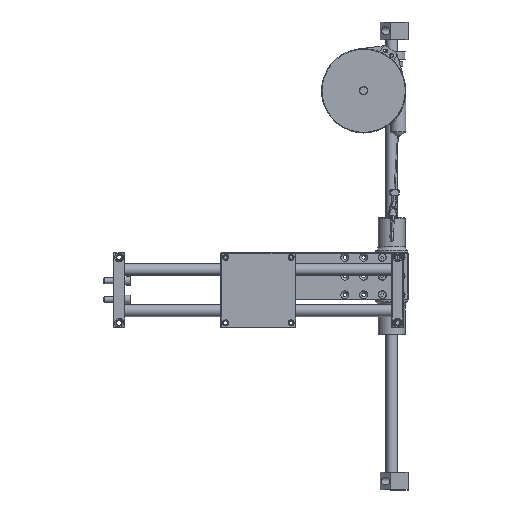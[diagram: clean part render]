
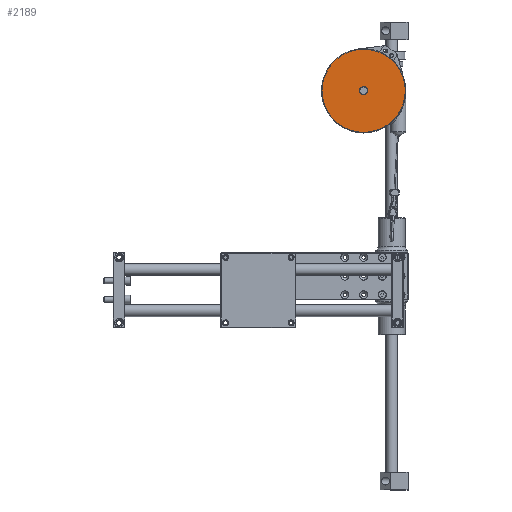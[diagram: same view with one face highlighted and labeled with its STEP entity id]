
A CAD part, top view. The second image highlights one B-rep face of the part: STEP entity #2189.
In plain terms, the highlighted planar face has unit normal (0, 0, 1) as drawn and (0, 0, -1) by its records, which use the part's own axes.
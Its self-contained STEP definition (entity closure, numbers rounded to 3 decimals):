
#2189 = ADVANCED_FACE( '', ( #4500, #4501 ), #4502, .T. );
#4500 = FACE_OUTER_BOUND( '', #7604, .T. );
#4501 = FACE_BOUND( '', #7605, .T. );
#4502 = PLANE( '', #7606 );
#7604 = EDGE_LOOP( '', ( #12360 ) );
#7605 = EDGE_LOOP( '', ( #12361 ) );
#7606 = AXIS2_PLACEMENT_3D( '', #12362, #12363, #12364 );
#12360 = ORIENTED_EDGE( '', *, *, #18001, .T. );
#12361 = ORIENTED_EDGE( '', *, *, #18002, .F. );
#12362 = CARTESIAN_POINT( '', ( -67.368, 63.746, -25. ) );
#12363 = DIRECTION( '', ( 0., 0., -1. ) );
#12364 = DIRECTION( '', ( -1., 0., 0. ) );
#18001 = EDGE_CURVE( '', #21498, #21498, #21499, .T. );
#18002 = EDGE_CURVE( '', #21500, #21500, #21501, .T. );
#21498 = VERTEX_POINT( '', #26365 );
#21499 = CIRCLE( '', #26366, 89. );
#21500 = VERTEX_POINT( '', #26367 );
#21501 = CIRCLE( '', #26368, 9. );
#26365 = CARTESIAN_POINT( '', ( -156.368, 63.746, -25. ) );
#26366 = AXIS2_PLACEMENT_3D( '', #31534, #31535, #31536 );
#26367 = CARTESIAN_POINT( '', ( -76.368, 63.746, -25. ) );
#26368 = AXIS2_PLACEMENT_3D( '', #31537, #31538, #31539 );
#31534 = CARTESIAN_POINT( '', ( -67.368, 63.746, -25. ) );
#31535 = DIRECTION( '', ( 0., 0., -1. ) );
#31536 = DIRECTION( '', ( -1., 0., 0. ) );
#31537 = CARTESIAN_POINT( '', ( -67.368, 63.746, -25. ) );
#31538 = DIRECTION( '', ( 0., 0., -1. ) );
#31539 = DIRECTION( '', ( -1., 0., 0. ) );
